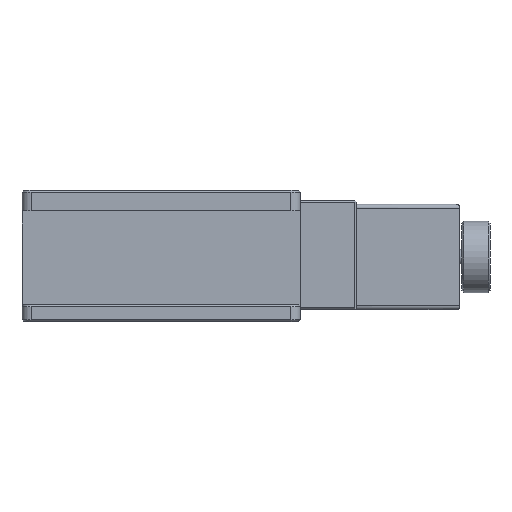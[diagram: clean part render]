
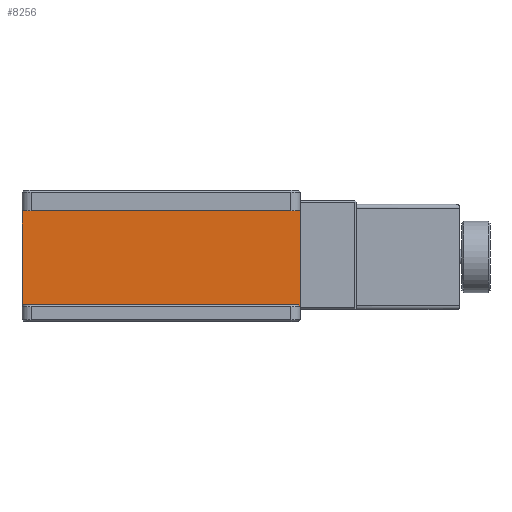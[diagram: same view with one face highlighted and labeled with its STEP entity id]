
A CAD part, left-side view. The second image highlights one B-rep face of the part: STEP entity #8256.
In plain terms, the highlighted planar face has unit normal (-1, 0, 0).
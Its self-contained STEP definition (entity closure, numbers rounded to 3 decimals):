
#370 = CARTESIAN_POINT ( 'NONE',  ( -56.5, -74., 59. ) ) ;
#821 = EDGE_CURVE ( 'NONE', #14208, #9103, #7142, .T. ) ;
#886 = AXIS2_PLACEMENT_3D ( 'NONE', #370, #8459, #11992 ) ;
#925 = ORIENTED_EDGE ( 'NONE', *, *, #12516, .F. ) ;
#1697 = ORIENTED_EDGE ( 'NONE', *, *, #9811, .T. ) ;
#1949 = VERTEX_POINT ( 'NONE', #15100 ) ;
#2111 = CARTESIAN_POINT ( 'NONE',  ( -56.5, -74., 8. ) ) ;
#2342 = CARTESIAN_POINT ( 'NONE',  ( -56.5, -74., 59. ) ) ;
#2655 = PLANE ( 'NONE',  #886 ) ;
#3402 = ORIENTED_EDGE ( 'NONE', *, *, #11428, .T. ) ;
#3524 = DIRECTION ( 'NONE',  ( 0., -1., 0. ) ) ;
#3583 = EDGE_LOOP ( 'NONE', ( #3402, #3848, #12869, #1697, #925, #13213 ) ) ;
#3848 = ORIENTED_EDGE ( 'NONE', *, *, #9160, .F. ) ;
#4066 = VERTEX_POINT ( 'NONE', #8018 ) ;
#4340 = DIRECTION ( 'NONE',  ( 0., -0.707, 0.707 ) ) ;
#5335 = FACE_OUTER_BOUND ( 'NONE', #3583, .T. ) ;
#5440 = CARTESIAN_POINT ( 'NONE',  ( -56.5, -73., 9. ) ) ;
#5442 = CARTESIAN_POINT ( 'NONE',  ( -56.5, -74., 9. ) ) ;
#5674 = LINE ( 'NONE', #8184, #10085 ) ;
#5853 = EDGE_CURVE ( 'NONE', #4066, #8544, #11965, .T. ) ;
#6385 = CARTESIAN_POINT ( 'NONE',  ( -56.5, 74., 59. ) ) ;
#6602 = VERTEX_POINT ( 'NONE', #8375 ) ;
#6813 = CARTESIAN_POINT ( 'NONE',  ( -56.5, 74., 8. ) ) ;
#7142 = LINE ( 'NONE', #8350, #11906 ) ;
#7684 = DIRECTION ( 'NONE',  ( 0., 0., 1. ) ) ;
#7881 = VECTOR ( 'NONE', #4340, 1000. ) ;
#8018 = CARTESIAN_POINT ( 'NONE',  ( -56.5, -74., 8. ) ) ;
#8184 = CARTESIAN_POINT ( 'NONE',  ( -56.5, -74., 9. ) ) ;
#8238 = CARTESIAN_POINT ( 'NONE',  ( -56.5, 73., 9. ) ) ;
#8256 = ADVANCED_FACE ( 'NONE', ( #5335 ), #2655, .F. ) ;
#8350 = CARTESIAN_POINT ( 'NONE',  ( -56.5, 74., 9. ) ) ;
#8375 = CARTESIAN_POINT ( 'NONE',  ( -56.5, 73., 9. ) ) ;
#8459 = DIRECTION ( 'NONE',  ( 1., 0., 0. ) ) ;
#8544 = VERTEX_POINT ( 'NONE', #5440 ) ;
#9103 = VERTEX_POINT ( 'NONE', #6813 ) ;
#9160 = EDGE_CURVE ( 'NONE', #8544, #6602, #5674, .T. ) ;
#9811 = EDGE_CURVE ( 'NONE', #4066, #1949, #12995, .T. ) ;
#10085 = VECTOR ( 'NONE', #11556, 1000. ) ;
#10837 = LINE ( 'NONE', #8238, #7881 ) ;
#11415 = DIRECTION ( 'NONE',  ( 0., 0.707, 0.707 ) ) ;
#11428 = EDGE_CURVE ( 'NONE', #9103, #6602, #10837, .T. ) ;
#11519 = VECTOR ( 'NONE', #3524, 1000. ) ;
#11556 = DIRECTION ( 'NONE',  ( 0., 1., 0. ) ) ;
#11906 = VECTOR ( 'NONE', #14750, 1000. ) ;
#11965 = LINE ( 'NONE', #2111, #14545 ) ;
#11992 = DIRECTION ( 'NONE',  ( 0., 0., -1. ) ) ;
#12516 = EDGE_CURVE ( 'NONE', #14208, #1949, #14650, .T. ) ;
#12869 = ORIENTED_EDGE ( 'NONE', *, *, #5853, .F. ) ;
#12995 = LINE ( 'NONE', #5442, #13186 ) ;
#13186 = VECTOR ( 'NONE', #7684, 1000. ) ;
#13213 = ORIENTED_EDGE ( 'NONE', *, *, #821, .T. ) ;
#14208 = VERTEX_POINT ( 'NONE', #6385 ) ;
#14545 = VECTOR ( 'NONE', #11415, 1000. ) ;
#14650 = LINE ( 'NONE', #2342, #11519 ) ;
#14750 = DIRECTION ( 'NONE',  ( 0., 0., -1. ) ) ;
#15100 = CARTESIAN_POINT ( 'NONE',  ( -56.5, -74., 59. ) ) ;
